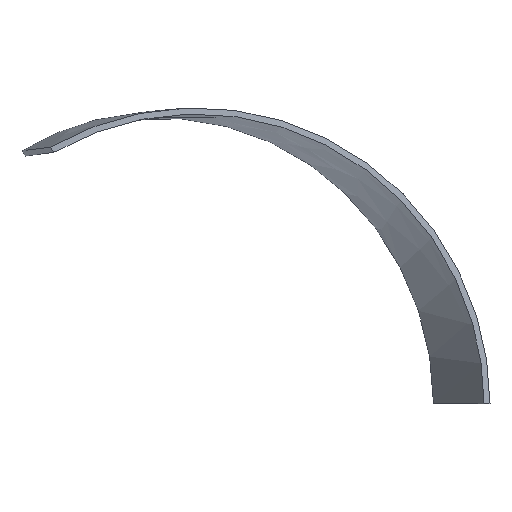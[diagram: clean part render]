
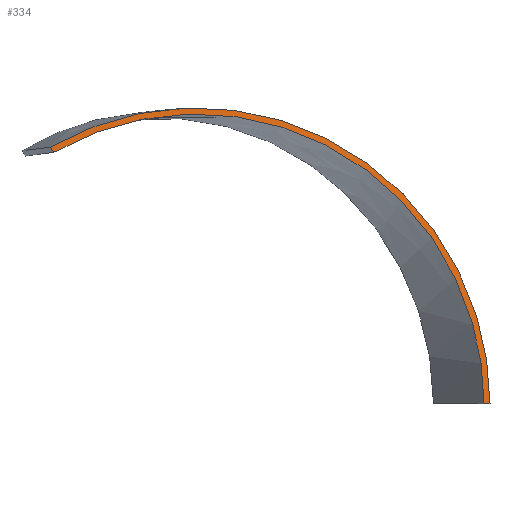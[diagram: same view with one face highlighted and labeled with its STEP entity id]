
A CAD part, left-side view. The second image highlights one B-rep face of the part: STEP entity #334.
In plain terms, the highlighted free-form (B-spline) face has degree [1, 3] with [2, 10] control points.
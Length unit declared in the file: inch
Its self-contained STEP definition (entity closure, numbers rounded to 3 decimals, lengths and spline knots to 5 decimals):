
#3 = CARTESIAN_POINT ( 'NONE',  ( 17.79904, -112.30989, 36.32359 ) ) ;
#8 = CARTESIAN_POINT ( 'NONE',  ( 16.81327, -106.14341, 34.66801 ) ) ;
#26 = ORIENTED_EDGE ( 'NONE', *, *, #505, .T. ) ;
#41 = CARTESIAN_POINT ( 'NONE',  ( 23.09703, -145.82892, 23.21754 ) ) ;
#44 = CARTESIAN_POINT ( 'NONE',  ( 16.00749, -101.0673, 30.86034 ) ) ;
#45 = CARTESIAN_POINT ( 'NONE',  ( 17.80871, -112.43979, 35.57338 ) ) ;
#52 = CARTESIAN_POINT ( 'NONE',  ( 24.52526, -154.37259, 0.12762 ) ) ;
#53 = CARTESIAN_POINT ( 'NONE',  ( 15.94329, -100.70011, 31.51115 ) ) ;
#57 = CARTESIAN_POINT ( 'NONE',  ( 17.80871, -112.43979, 35.57338 ) ) ;
#68 = EDGE_CURVE ( 'NONE', #518, #149, #309, .T. ) ;
#80 = CARTESIAN_POINT ( 'NONE',  ( 24.07319, -151.99217, 12.45315 ) ) ;
#87 = CARTESIAN_POINT ( 'NONE',  ( 24.52526, -154.37259, 0.12762 ) ) ;
#88 = VERTEX_POINT ( 'NONE', #381 ) ;
#95 = CARTESIAN_POINT ( 'NONE',  ( 15.94329, -100.70011, 31.51115 ) ) ;
#111 = CARTESIAN_POINT ( 'NONE',  ( 23.09703, -145.82892, 23.21754 ) ) ;
#125 = CARTESIAN_POINT ( 'NONE',  ( 24.25515, -152.68366, 12.71455 ) ) ;
#126 = CARTESIAN_POINT ( 'NONE',  ( 24.52526, -154.37259, 0.12762 ) ) ;
#135 = CARTESIAN_POINT ( 'NONE',  ( 15.94329, -100.70011, 31.51115 ) ) ;
#149 = VERTEX_POINT ( 'NONE', #260 ) ;
#154 = CARTESIAN_POINT ( 'NONE',  ( 24.33188, -153.62545, 6.34611 ) ) ;
#161 = CARTESIAN_POINT ( 'NONE',  ( 16.00749, -101.0673, 30.86034 ) ) ;
#175 = CARTESIAN_POINT ( 'NONE',  ( 24.25515, -152.68366, 12.71455 ) ) ;
#179 = CARTESIAN_POINT ( 'NONE',  ( 22.52719, -141.87905, 28.2698 ) ) ;
#184 = CARTESIAN_POINT ( 'NONE',  ( 24.3353, -153.64705, 0.125 ) ) ;
#208 = B_SPLINE_CURVE_WITH_KNOTS ( 'NONE', 1,
 ( #322, #126 ),
 .UNSPECIFIED., .F., .F.,
 ( 2, 2 ),
 ( 0., 1. ),
 .UNSPECIFIED. ) ;
#211 = CARTESIAN_POINT ( 'NONE',  ( 24.3353, -153.64705, 0.125 ) ) ;
#213 = ORIENTED_EDGE ( 'NONE', *, *, #68, .F. ) ;
#230 = EDGE_CURVE ( 'NONE', #149, #88, #378, .T. ) ;
#260 = CARTESIAN_POINT ( 'NONE',  ( 15.94329, -100.70011, 31.51115 ) ) ;
#261 = FACE_OUTER_BOUND ( 'NONE', #414, .T. ) ;
#290 = CARTESIAN_POINT ( 'NONE',  ( 24.52174, -154.35055, 6.47927 ) ) ;
#305 = CARTESIAN_POINT ( 'NONE',  ( 22.39655, -141.40627, 27.68746 ) ) ;
#309 = B_SPLINE_CURVE_WITH_KNOTS ( 'NONE', 1,
 ( #524, #53 ),
 .UNSPECIFIED., .F., .F.,
 ( 2, 2 ),
 ( 0., 1. ),
 .UNSPECIFIED. ) ;
#322 = CARTESIAN_POINT ( 'NONE',  ( 24.3353, -153.64705, 0.125 ) ) ;
#326 = CARTESIAN_POINT ( 'NONE',  ( 22.39655, -141.40627, 27.68746 ) ) ;
#329 = CARTESIAN_POINT ( 'NONE',  ( 19.80483, -124.8551, 36.30076 ) ) ;
#332 = CARTESIAN_POINT ( 'NONE',  ( 22.52719, -141.87905, 28.2698 ) ) ;
#334 = ADVANCED_FACE ( 'NONE', ( #261 ), #512, .T. ) ;
#343 = CARTESIAN_POINT ( 'NONE',  ( 19.75511, -124.72887, 35.55151 ) ) ;
#356 = ORIENTED_EDGE ( 'NONE', *, *, #529, .T. ) ;
#366 = CARTESIAN_POINT ( 'NONE',  ( 16.81327, -106.14342, 34.66801 ) ) ;
#369 = CARTESIAN_POINT ( 'NONE',  ( 16.85201, -106.3994, 33.95195 ) ) ;
#372 = CARTESIAN_POINT ( 'NONE',  ( 20.71092, -130.7636, 33.9086 ) ) ;
#374 = CARTESIAN_POINT ( 'NONE',  ( 23.24913, -146.3932, 23.70545 ) ) ;
#378 = B_SPLINE_CURVE_WITH_KNOTS ( 'NONE', 3,
 ( #95, #8, #413, #494, #419, #179, #374, #175, #502, #52 ),
 .UNSPECIFIED., .F., .F.,
 ( 4, 2, 2, 2, 4 ),
 ( 0., 0.25, 0.5, 0.75, 1. ),
 .UNSPECIFIED. ) ;
#381 = CARTESIAN_POINT ( 'NONE',  ( 24.52526, -154.37259, 0.12762 ) ) ;
#384 = CARTESIAN_POINT ( 'NONE',  ( 20.71092, -130.7636, 33.9086 ) ) ;
#401 = CARTESIAN_POINT ( 'NONE',  ( 19.75511, -124.72887, 35.55151 ) ) ;
#413 = CARTESIAN_POINT ( 'NONE',  ( 17.79904, -112.30989, 36.32359 ) ) ;
#414 = EDGE_LOOP ( 'NONE', ( #213, #26, #356, #458 ) ) ;
#419 = CARTESIAN_POINT ( 'NONE',  ( 20.78993, -131.01548, 34.62276 ) ) ;
#424 = CARTESIAN_POINT ( 'NONE',  ( 24.07319, -151.99217, 12.45315 ) ) ;
#425 = VERTEX_POINT ( 'NONE', #476 ) ;
#451 = CARTESIAN_POINT ( 'NONE',  ( 16.85201, -106.3994, 33.95195 ) ) ;
#453 = CARTESIAN_POINT ( 'NONE',  ( 20.78993, -131.01548, 34.62276 ) ) ;
#457 = CARTESIAN_POINT ( 'NONE',  ( 23.24913, -146.3932, 23.70545 ) ) ;
#458 = ORIENTED_EDGE ( 'NONE', *, *, #230, .F. ) ;
#476 = CARTESIAN_POINT ( 'NONE',  ( 24.3353, -153.64705, 0.125 ) ) ;
#490 = CARTESIAN_POINT ( 'NONE',  ( 24.33188, -153.62545, 6.34611 ) ) ;
#494 = CARTESIAN_POINT ( 'NONE',  ( 19.80483, -124.8551, 36.30076 ) ) ;
#502 = CARTESIAN_POINT ( 'NONE',  ( 24.52174, -154.35055, 6.47927 ) ) ;
#505 = EDGE_CURVE ( 'NONE', #518, #425, #527, .T. ) ;
#512 = B_SPLINE_SURFACE_WITH_KNOTS ( 'NONE', 1, 3, ( 
 ( #135, #366, #3, #329, #453, #332, #457, #125, #290, #87 ),
 ( #44, #369, #57, #343, #384, #305, #111, #424, #154, #184 ) ),
 .UNSPECIFIED., .F., .F., .F.,
 ( 2, 2 ),
 ( 4, 2, 2, 2, 4 ),
 ( 0., 1. ),
 ( 0., 0.25, 0.5, 0.75, 1. ),
 .UNSPECIFIED. ) ;
#518 = VERTEX_POINT ( 'NONE', #161 ) ;
#524 = CARTESIAN_POINT ( 'NONE',  ( 16.00749, -101.0673, 30.86034 ) ) ;
#527 = B_SPLINE_CURVE_WITH_KNOTS ( 'NONE', 3,
 ( #528, #451, #45, #401, #372, #326, #41, #80, #490, #211 ),
 .UNSPECIFIED., .F., .F.,
 ( 4, 2, 2, 2, 4 ),
 ( 0., 0.25, 0.5, 0.75, 1. ),
 .UNSPECIFIED. ) ;
#528 = CARTESIAN_POINT ( 'NONE',  ( 16.00749, -101.0673, 30.86034 ) ) ;
#529 = EDGE_CURVE ( 'NONE', #425, #88, #208, .T. ) ;
